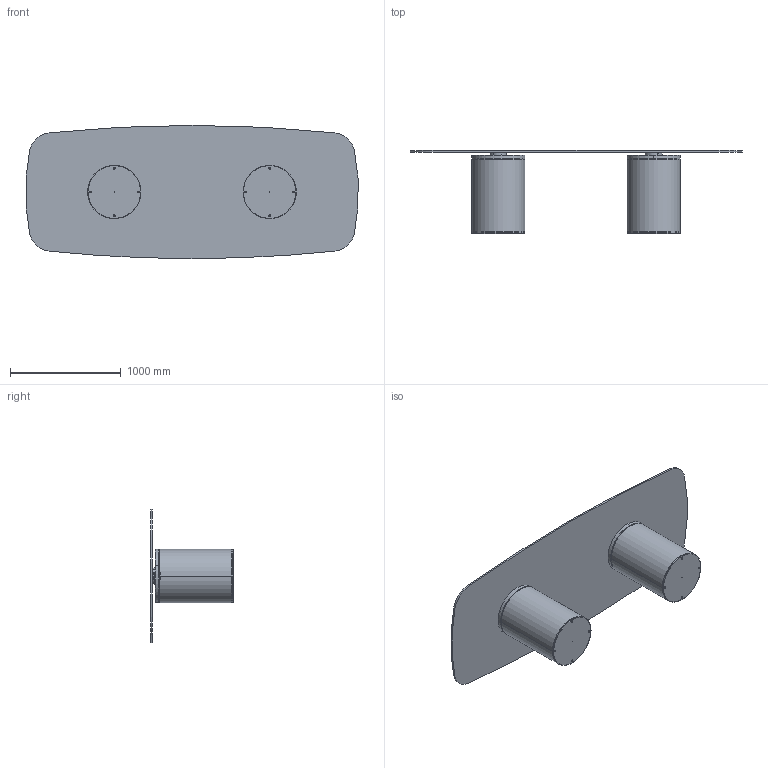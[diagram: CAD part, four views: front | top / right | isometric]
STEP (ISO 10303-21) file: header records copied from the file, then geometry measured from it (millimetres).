
FILE_DESCRIPTION (( 'STEP AP203' ), '1' );
FILE_NAME ('CI44G.STEP', '2024-08-08T06:51:32', ( '' ), ( '' ), 'SwSTEP 2.0', 'SolidWorks 2022', '' );
FILE_SCHEMA (( 'CONFIG_CONTROL_DESIGN' ));
Length unit declared in the file: millimetre
Products named in the file (12): Grano M6_M6x14; PIASTRE DOPPIE D.150 PER TRASPARENTE MASCHIO_Ø150; CI44G; CIB000000SPE-00-SPESSORE PER CILINDRO TRASPARENTE; CIB000000-00-CILINDRO BASE D.480mm_SENZA PIASTRA; C2XCRXX-00-Piani Sagomati Cristallo Trasparente CON DISCHI_C44CR0CI-00-PIANO CRI. 300x120cm sag. CILINDRO; CIB000000_02-01-ZAVORRA IN FERRO D.480mm; CIB000000BAR-00-BARRA PER CILINDRO TRASPARENTE_Default<A macchina>; C4XCRXX-00-Piani Sagomati in Cristallo TRASPARENTE_C44 3000 x 1200; CIB000000_01-00-struttura cilindro D.480mm; M8xXXmm_hex_M8X20mm; PIASTRE DOPPIE D.150 PER TRASPARENTE FEMMINA_Ø150
Assembly tree (24 placements, depth 3):
  CI44G
    C2XCRXX-00-Piani Sagomati Cristallo Trasparente CON DISCHI_C44CR0CI-00-PIANO CRI. 300x120cm sag. CILINDRO
      C4XCRXX-00-Piani Sagomati in Cristallo TRASPARENTE_C44 3000 x 1200
      PIASTRE DOPPIE D.150 PER TRASPARENTE MASCHIO_Ø150  x2
    CIB000000-00-CILINDRO BASE D.480mm_SENZA PIASTRA  x2
      CIB000000_01-00-struttura cilindro D.480mm
      CIB000000_02-01-ZAVORRA IN FERRO D.480mm
      M8xXXmm_hex_M8X20mm
    CIB000000SPE-00-SPESSORE PER CILINDRO TRASPARENTE  x2
    CIB000000BAR-00-BARRA PER CILINDRO TRASPARENTE_Default<A macchina>  x2
    PIASTRE DOPPIE D.150 PER TRASPARENTE FEMMINA_Ø150  x2
    Grano M6_M6x14  x6
Bounding box: 2991.72 x 747 x 1200 mm (x, y, z)
Volume: 73114221.5 mm3; surface area: 13353777.5 mm2
Topology: 37 solids, 37 shells, 957 faces, 2243 edges, 1352 vertices
Faces by surface type: cylinder 441, plane 330, cone 124, sphere 28, bspline 18, torus 16
Entity records: 13053 total; most frequent: CARTESIAN_POINT 4286, DIRECTION 1605, ORIENTED_EDGE 1406, EDGE_CURVE 703, AXIS2_PLACEMENT_3D 649, VERTEX_POINT 434, EDGE_LOOP 373, CIRCLE 323
